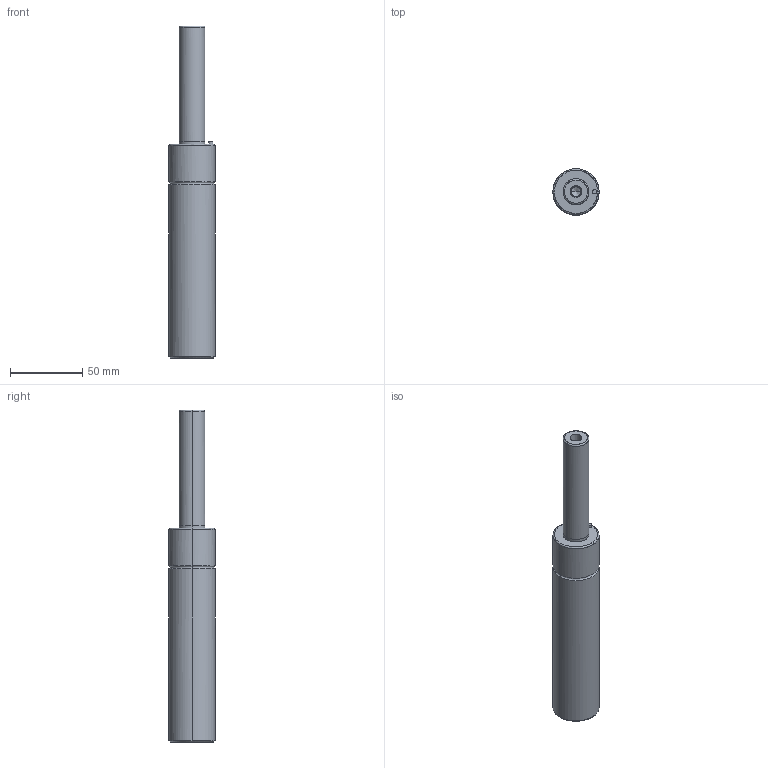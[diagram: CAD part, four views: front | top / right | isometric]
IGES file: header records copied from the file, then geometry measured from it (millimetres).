
Global section: file name: E:\UnigraphicsGraphicData\MISUMI_PRESS-PARTS\IGES\3d_gsm32-80_03898_r00.igs; native system: NX V5.0; preprocessor: UGS NX IGES V5.0; author: MISUMI; date: 20110105.160811; units: millimetre
Bounding box: 32 x 31.99 x 230 mm (x, y, z)
Surface area: 21981.6 mm2 (no closed solid volume)
Topology: 0 solids, 0 shells, 50 faces, 328 edges, 320 vertices
Faces by surface type: bspline 50
